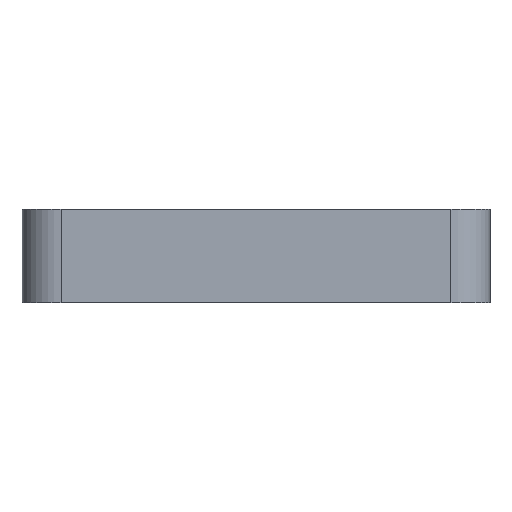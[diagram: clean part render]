
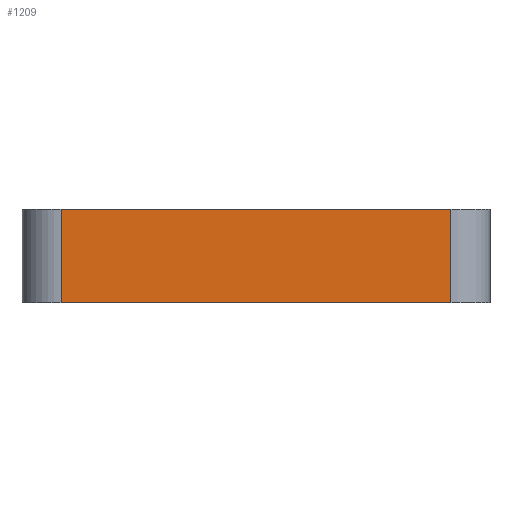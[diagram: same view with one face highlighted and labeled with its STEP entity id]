
A CAD part, left-side view. The second image highlights one B-rep face of the part: STEP entity #1209.
In plain terms, the highlighted planar face has unit normal (-1, 0, 0).
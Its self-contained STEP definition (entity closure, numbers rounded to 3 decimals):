
#22 = ORIENTED_EDGE ( 'NONE', *, *, #1250, .T. ) ;
#68 = VERTEX_POINT ( 'NONE', #2143 ) ;
#117 = FACE_OUTER_BOUND ( 'NONE', #320, .T. ) ;
#128 = ORIENTED_EDGE ( 'NONE', *, *, #1293, .F. ) ;
#136 = ORIENTED_EDGE ( 'NONE', *, *, #1174, .T. ) ;
#143 = VERTEX_POINT ( 'NONE', #2175 ) ;
#253 = VERTEX_POINT ( 'NONE', #2224 ) ;
#279 = LINE ( 'NONE', #1815, #943 ) ;
#295 = ORIENTED_EDGE ( 'NONE', *, *, #1147, .T. ) ;
#320 = EDGE_LOOP ( 'NONE', ( #22, #295, #128, #136 ) ) ;
#406 = LINE ( 'NONE', #1375, #977 ) ;
#434 = LINE ( 'NONE', #1838, #831 ) ;
#473 = VERTEX_POINT ( 'NONE', #2127 ) ;
#583 = LINE ( 'NONE', #1954, #769 ) ;
#769 = VECTOR ( 'NONE', #1955, 1000. ) ;
#831 = VECTOR ( 'NONE', #1839, 1000. ) ;
#943 = VECTOR ( 'NONE', #1816, 1000. ) ;
#977 = VECTOR ( 'NONE', #1376, 1000. ) ;
#988 = AXIS2_PLACEMENT_3D ( 'NONE', #1467, #1468, #1469 ) ;
#1147 = EDGE_CURVE ( 'NONE', #68, #143, #279, .T. ) ;
#1174 = EDGE_CURVE ( 'NONE', #473, #253, #406, .T. ) ;
#1209 = ADVANCED_FACE ( 'NONE', ( #117 ), #1466, .F. ) ;
#1250 = EDGE_CURVE ( 'NONE', #253, #68, #434, .T. ) ;
#1293 = EDGE_CURVE ( 'NONE', #473, #143, #583, .T. ) ;
#1375 = CARTESIAN_POINT ( 'NONE',  ( -30., 25., 6. ) ) ;
#1376 = DIRECTION ( 'NONE',  ( 0., 0., -1. ) ) ;
#1466 = PLANE ( 'NONE',  #988 ) ;
#1467 = CARTESIAN_POINT ( 'NONE',  ( -30., 30., 6. ) ) ;
#1468 = DIRECTION ( 'NONE',  ( 1., 0., 0. ) ) ;
#1469 = DIRECTION ( 'NONE',  ( 0., 1., 0. ) ) ;
#1815 = CARTESIAN_POINT ( 'NONE',  ( -30., -25., 6. ) ) ;
#1816 = DIRECTION ( 'NONE',  ( 0., 0., 1. ) ) ;
#1838 = CARTESIAN_POINT ( 'NONE',  ( -30., 30., -6. ) ) ;
#1839 = DIRECTION ( 'NONE',  ( 0., -1., 0. ) ) ;
#1954 = CARTESIAN_POINT ( 'NONE',  ( -30., 30., 6. ) ) ;
#1955 = DIRECTION ( 'NONE',  ( 0., -1., 0. ) ) ;
#2127 = CARTESIAN_POINT ( 'NONE',  ( -30., 25., 6. ) ) ;
#2143 = CARTESIAN_POINT ( 'NONE',  ( -30., -25., -6. ) ) ;
#2175 = CARTESIAN_POINT ( 'NONE',  ( -30., -25., 6. ) ) ;
#2224 = CARTESIAN_POINT ( 'NONE',  ( -30., 25., -6. ) ) ;
